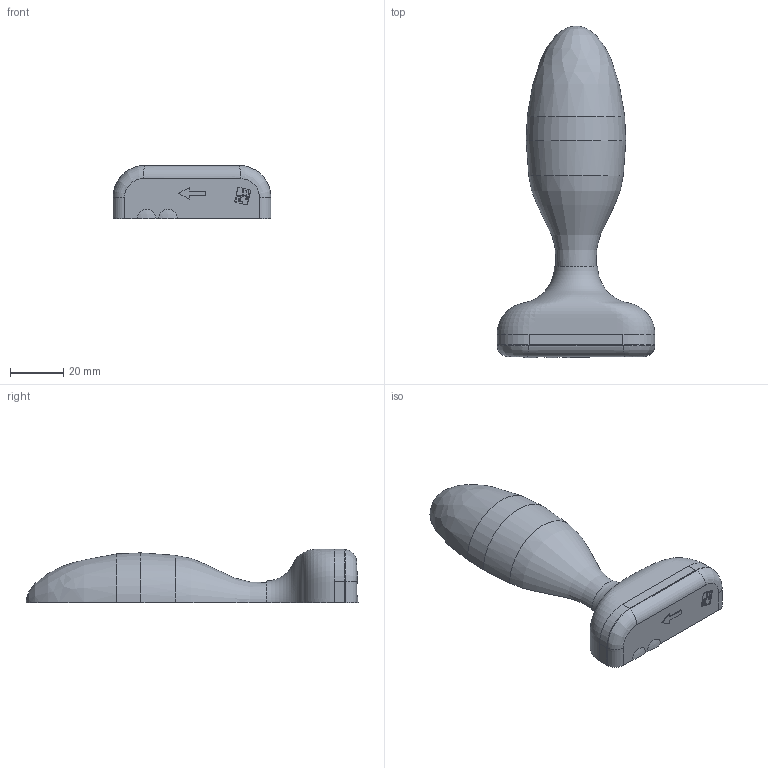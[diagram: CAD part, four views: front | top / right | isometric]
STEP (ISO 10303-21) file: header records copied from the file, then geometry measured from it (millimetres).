
FILE_DESCRIPTION(('FreeCAD Model'),'2;1');
FILE_NAME('Open CASCADE Shape Model','2026-11-21T15:21:18',('Author'),( ''),'Open CASCADE STEP processor 7.8','FreeCAD','Unknown');
FILE_SCHEMA(('AUTOMOTIVE_DESIGN { 1 0 10303 214 1 1 1 1 }'));
Length unit declared in the file: millimetre
Products named in the file (1): MockupHalfA0
Bounding box: 59.2 x 124.5 x 20 mm (x, y, z)
Volume: 55018.2 mm3; surface area: 12065.4 mm2
Topology: 1 solids, 1 shells, 227 faces, 642 edges, 425 vertices
Faces by surface type: extrusion 164, plane 41, bspline 11, cylinder 5, revolution 4, sphere 2
Full cylindrical faces by diameter (mm): 3.3 x3
Entity records: 20745 total; most frequent: CARTESIAN_POINT 15589, ORIENTED_EDGE 1282, EDGE_CURVE 641, DIRECTION 562, B_SPLINE_CURVE_WITH_KNOTS 525, VECTOR 426, VERTEX_POINT 425, LINE 262
